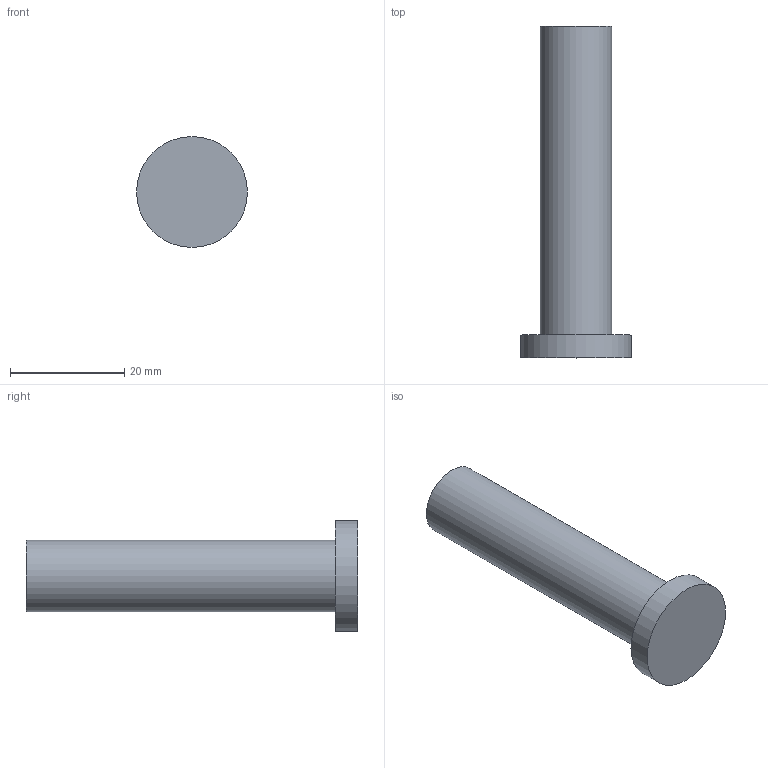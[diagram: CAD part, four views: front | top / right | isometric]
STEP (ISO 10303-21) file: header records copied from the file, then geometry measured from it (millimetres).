
FILE_DESCRIPTION(('Open CASCADE Model'),'2;1');
FILE_NAME('Open CASCADE Shape Model','2026-10-20T13:19:34',('Author'),( 'Open CASCADE'),'Open CASCADE STEP processor 7.9','Open CASCADE 7.9' ,'Unknown');
FILE_SCHEMA(('AUTOMOTIVE_DESIGN { 1 0 10303 214 1 1 1 1 }'));
Length unit declared in the file: millimetre
Products named in the file (1): Open CASCADE STEP translator 7.9 5
Bounding box: 19.38 x 58 x 19.38 mm (x, y, z)
Volume: 7806.1 mm3; surface area: 2953.7 mm2
Topology: 1 solids, 1 shells, 5 faces, 6 edges, 4 vertices
Faces by surface type: plane 3, cylinder 2
Full cylindrical faces by diameter (mm): 12.5 x1, 19.375 x1
Entity records: 192 total; most frequent: DIRECTION 34, CARTESIAN_POINT 28, ORIENTED_EDGE 12, PCURVE 12, DEFINITIONAL_REPRESENTATION 12, AXIS2_PLACEMENT_3D 10, LINE 10, VECTOR 10
